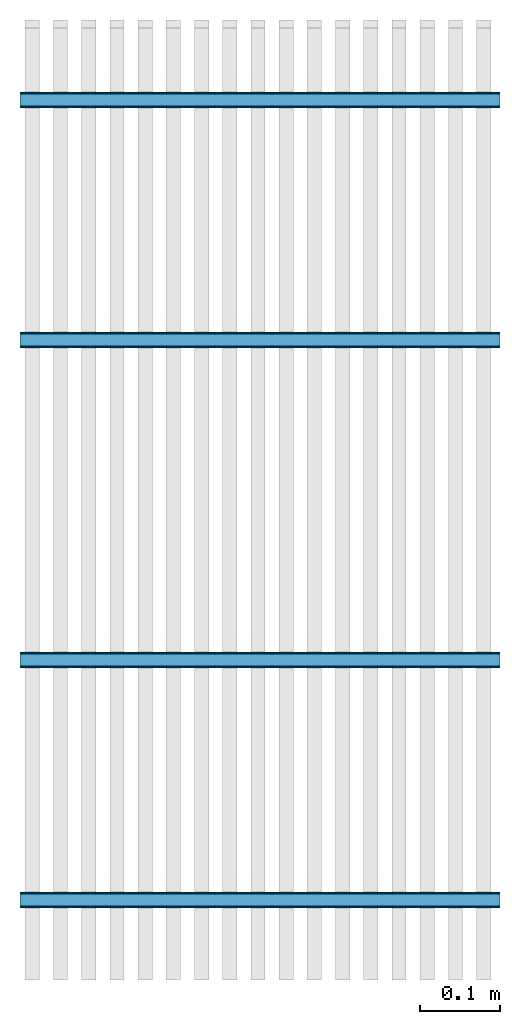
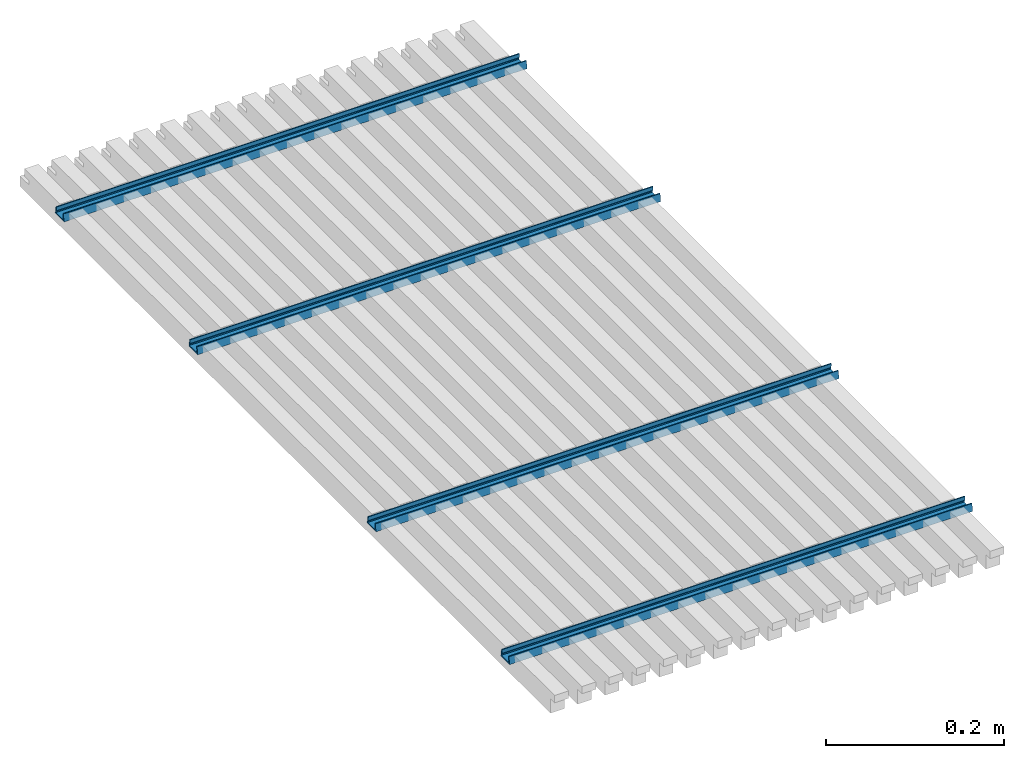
# One storey, part 1 of 3: 4 beams.
"""IFC2X3 building model written with IfcOpenShell, lengths in millimetres."""

import ifcopenshell
import ifcopenshell.guid

model = None  # the IFC model being written
_history = None  # IfcOwnerHistory: only IFC2X3 demands one
_inside = {}  # id of a spatial element -> (the spatial element, [elements in it])
_under = {}  # id of a project, library or spatial element -> (it, [spatial elements below it])
_declared = {}  # id of a project -> (the project, [libraries it declares])
_typed = {}  # id of a type object -> (the type object, [elements of that type])
_made_of = {}  # id of a material, layer set ... -> (it, [elements and type objects made of it])


def new_model(schema):
    """Start an empty IFC model of exactly this schema.

    Asked for "IFC4X3", IfcOpenShell would pick the latest addendum, in which some entities
    have other attributes; the version numbers below select the first issue.
    IFC2X3 requires an IfcOwnerHistory on every rooted entity: one is made here for all.
    """
    global model, _history
    if schema == "IFC4X3":
        model = ifcopenshell.file(schema_version=(4, 3, 0, 0))
    else:
        model = ifcopenshell.file(schema=schema)
    _inside.clear()
    _under.clear()
    _declared.clear()
    _typed.clear()
    _made_of.clear()
    _history = None
    if model.schema == "IFC2X3":
        org = make("IfcOrganization", Name="unknown")
        user = make(
            "IfcPersonAndOrganization",
            ThePerson=make("IfcPerson", FamilyName="unknown"),
            TheOrganization=org,
        )
        app = make(
            "IfcApplication",
            ApplicationDeveloper=org,
            Version="unknown",
            ApplicationFullName="unknown",
            ApplicationIdentifier="unknown",
        )
        _history = make(
            "IfcOwnerHistory",
            OwningUser=user,
            OwningApplication=app,
            ChangeAction="ADDED",
            CreationDate=0,
        )
    return model


def make(cls, **values):
    """One entity of the class cls with the attributes given. An attribute that is None is left unset."""
    return model.create_entity(
        cls, **{name: value for name, value in values.items() if value is not None}
    )


def entity(cls, *values):
    """Any entity or typed value of the class cls, its attributes in the order of the schema. None: left unset."""
    e = model.create_entity(cls)
    for i, value in enumerate(values):
        if value is not None:
            e[i] = value
    return e


def rooted(cls, **values):
    """An entity with a GlobalId (a new one), such as an element, a storey or a relation."""
    return make(cls, GlobalId=ifcopenshell.guid.new(), OwnerHistory=_history, **values)


def si_unit(unit_type, name, prefix=None):
    """IfcSIUnit, for example si_unit("LENGTHUNIT", "METRE", prefix="MILLI")."""
    return make("IfcSIUnit", UnitType=unit_type, Prefix=prefix, Name=name)


def converted_unit(unit_type, name, factor, base, dimensions=None, offset=None):
    """IfcConversionBasedUnit, such as the inch: factor (a typed value) times the base unit."""
    return make(
        "IfcConversionBasedUnit"
        if offset is None
        else "IfcConversionBasedUnitWithOffset",
        ConversionOffset=offset,
        Dimensions=None
        if dimensions is None
        else entity("IfcDimensionalExponents", *dimensions),
        UnitType=unit_type,
        Name=name,
        ConversionFactor=make(
            "IfcMeasureWithUnit", ValueComponent=factor, UnitComponent=base
        ),
    )


def money_unit(currency):
    """IfcMonetaryUnit."""
    return make("IfcMonetaryUnit", Currency=currency)


def assignment(units):
    """IfcUnitAssignment: the units of a project."""
    return None if units is None else make("IfcUnitAssignment", Units=units)


def point(xyz):
    """IfcCartesianPoint."""
    return None if xyz is None else make("IfcCartesianPoint", Coordinates=xyz)


def direction(xyz):
    """IfcDirection."""
    return None if xyz is None else make("IfcDirection", DirectionRatios=xyz)


def frame(location, z_axis=None, x_axis=None):
    """IfcAxis2Placement3D, a coordinate frame: its origin and axes. An axis left out is left unset."""
    return make(
        "IfcAxis2Placement3D",
        Location=point(location),
        Axis=direction(z_axis),
        RefDirection=direction(x_axis),
    )


def origin_with_axes():
    """The frame at (0, 0, 0) with the z axis (0, 0, 1) and the x axis (1, 0, 0) written out."""
    return frame((0.0, 0.0, 0.0), z_axis=(0.0, 0.0, 1.0), x_axis=(1.0, 0.0, 0.0))


def place(relative_to, where):
    """IfcLocalPlacement: puts the frame where relative to a parent placement (None: the world)."""
    return make(
        "IfcLocalPlacement", PlacementRelTo=relative_to, RelativePlacement=where
    )


def context(
    kind, dimensions, precision=None, world=None, true_north=None, identifier=None
):
    """IfcGeometricRepresentationContext, for example the 3D "Model" context."""
    return make(
        "IfcGeometricRepresentationContext",
        ContextIdentifier=identifier,
        ContextType=kind,
        CoordinateSpaceDimension=dimensions,
        Precision=precision,
        WorldCoordinateSystem=world,
        TrueNorth=true_north,
    )


def subcontext(parent, identifier, kind, view, scale=None):
    """IfcGeometricRepresentationSubContext, for example "Body" below "Model"."""
    return make(
        "IfcGeometricRepresentationSubContext",
        ContextIdentifier=identifier,
        ContextType=kind,
        ParentContext=parent,
        TargetScale=scale,
        TargetView=view,
    )


def project(units=None, contexts=None):
    """IfcProject with its units and contexts."""
    return rooted(
        "IfcProject",
        Name="project",
        RepresentationContexts=contexts,
        UnitsInContext=assignment(units),
    )


def spatial(cls, under=None, at=None, **own):
    """A site, building, storey or space (cls), placed at a placement, below another one or the project."""
    s = rooted(cls, ObjectPlacement=at, **own)
    if under is not None:
        _under.setdefault(under.id(), (under, []))[1].append(s)
    return s


def polyline(points):
    """IfcPolyline through the points."""
    return make("IfcPolyline", Points=[point(p) for p in points])


def outline(outer, holes=None, kind="AREA"):
    """IfcArbitraryClosedProfileDef: a profile drawn as a closed curve; with holes, ...WithVoids."""
    if holes is None:
        return make("IfcArbitraryClosedProfileDef", ProfileType=kind, OuterCurve=outer)
    return make(
        "IfcArbitraryProfileDefWithVoids",
        ProfileType=kind,
        OuterCurve=outer,
        InnerCurves=holes,
    )


def extrude(swept, where, along, depth):
    """IfcExtrudedAreaSolid: the profile swept, set in the frame where, extruded along a direction by depth."""
    return make(
        "IfcExtrudedAreaSolid",
        SweptArea=swept,
        Position=where,
        ExtrudedDirection=direction(along),
        Depth=depth,
    )


def shape(context_of_items, identifier, shape_type, items):
    """IfcShapeRepresentation: the items that make up one representation, for example the "Body"."""
    return make(
        "IfcShapeRepresentation",
        ContextOfItems=context_of_items,
        RepresentationIdentifier=identifier,
        RepresentationType=shape_type,
        Items=items,
    )


def material(Name=None, Category=None):
    """IfcMaterial."""
    return make("IfcMaterial", Name=Name, Category=Category)


def made_of(thing, what):
    """Note that an element or type object is made of a material, layer set ...; save() writes the relation."""
    if what is not None:
        _made_of.setdefault(what.id(), (what, []))[1].append(thing)
    return thing


def type_object(cls, material=None, **own):
    """A type object (cls), such as IfcWallType, which elements share."""
    return made_of(rooted(cls, **own), material)


def element(
    cls,
    number,
    at=None,
    inside=None,
    cuts=None,
    type_object=None,
    material=None,
    context=None,
    identifier="Body",
    shape_type=None,
    held_by="IfcProductDefinitionShape",
    body=None,
    shapes=None,
    **own,
):
    """One element of the class cls, such as IfcWall. Its Tag is "e" and its number.

    at: its placement. inside: the storey or other place that contains it. cuts: it is an
    opening in that element (IfcRelVoidsElement). A single representation is given by context,
    identifier, shape_type and body (its items); several are given by shapes. held_by: the class
    of the entity that holds the representations. save() writes the other relations.
    """
    e = rooted(cls, Tag="e%d" % number, ObjectPlacement=at, **own)
    if body is not None:
        shapes = [shape(context, identifier, shape_type, body)]
    if shapes is not None:
        e.Representation = make(held_by, Representations=shapes)
    if inside is not None:
        _inside.setdefault(inside.id(), (inside, []))[1].append(e)
    if cuts is not None:
        rooted(
            "IfcRelVoidsElement", RelatingBuildingElement=cuts, RelatedOpeningElement=e
        )
    if type_object is not None:
        _typed.setdefault(type_object.id(), (type_object, []))[1].append(e)
    return made_of(e, material)


def aggregate(whole, parts):
    """IfcRelAggregates: a whole, such as a stair, and the parts it consists of."""
    return rooted("IfcRelAggregates", RelatingObject=whole, RelatedObjects=parts)


def save(model, path):
    """Write the relations noted so far, then the file.

    IfcRelAggregates (storeys below a building ...), IfcRelContainedInSpatialStructure (elements
    in a storey), IfcRelDefinesByType, IfcRelAssociatesMaterial and IfcRelDeclares: one each for
    every whole, place, type object, material and project.
    """
    for whole, parts in _under.values():
        aggregate(whole, parts)
    for where, things in _inside.values():
        rooted(
            "IfcRelContainedInSpatialStructure",
            RelatedElements=things,
            RelatingStructure=where,
        )
    for kind, things in _typed.values():
        rooted("IfcRelDefinesByType", RelatedObjects=things, RelatingType=kind)
    for what, things in _made_of.values():
        rooted("IfcRelAssociatesMaterial", RelatedObjects=things, RelatingMaterial=what)
    for by, libraries in _declared.values():
        rooted("IfcRelDeclares", RelatingContext=by, RelatedDefinitions=libraries)
    model.write(path)


model = new_model("IFC2X3")

# Units and contexts
model_context = context("Model", 3, precision=1e-05, world=origin_with_axes(), true_north=direction((0.0, 1.0)))
body_context = subcontext(model_context, "Body", "Model", "MODEL_VIEW")
ifc_project = project(units=[si_unit("LENGTHUNIT", "METRE", prefix="MILLI"), si_unit("AREAUNIT", "SQUARE_METRE"), si_unit("VOLUMEUNIT", "CUBIC_METRE"), converted_unit("PLANEANGLEUNIT", "DEGREE", entity("IfcPlaneAngleMeasure", 0.0174532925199), si_unit("PLANEANGLEUNIT", "RADIAN"), dimensions=[0, 0, 0, 0, 0, 0, 0]), si_unit("SOLIDANGLEUNIT", "STERADIAN"), money_unit("AUD"), si_unit("TIMEUNIT", "SECOND"), si_unit("MASSUNIT", "GRAM"), si_unit("THERMODYNAMICTEMPERATUREUNIT", "DEGREE_CELSIUS"), si_unit("LUMINOUSINTENSITYUNIT", "LUMEN")], contexts=[model_context])

# Site, building, storey
site_placement = place(None, origin_with_axes())
site = spatial("IfcSite", under=ifc_project, at=site_placement, Name="Site", CompositionType="ELEMENT")
building_placement = place(site_placement, origin_with_axes())
building = spatial("IfcBuilding", under=site, at=building_placement, Name="Building", CompositionType="ELEMENT")
storey_placement = place(building_placement, origin_with_axes())
storey = spatial("IfcBuildingStorey", under=building, at=storey_placement, Name="GROUND", CompositionType="ELEMENT", Elevation=0.0)

# Beams
ifc_material = material(Name="Brick - Internal Wall")
beam_type = type_object("IfcBeamType", Name="15MM GRID 20 x 10", PredefinedType="NOTDEFINED")
for number, where, z_axis, x_axis, name in (
    (1, (2.5, 100.0, 20.0), (0.0, 0.0, 1.0), (0.0, -1.0, 0.0), "BEAM-02"),
    (2, (2.5, 400.0, 20.0), (0.0, 0.0, 1.0), (0.0, -1.0, 0.0), "BEAM-02"),
    (3, (2.5, 800.0, 20.0), (0.0, 0.0, 1.0), (0.0, -1.0, 0.0), "BEAM-02"),
    (4, (2.5, 1100.0, 20.0), (0.0, 0.0, 1.0), (0.0, -1.0, 0.0), "BEAM-02"),
):
    element("IfcBeam", number, at=place(storey_placement, frame(where, z_axis=z_axis, x_axis=x_axis)), inside=storey, type_object=beam_type, material=ifc_material, Name=name, ObjectType="15MM GRID 20 x 10", context=body_context, shape_type="SweptSolid", body=[
        extrude(outline(polyline([(10.0, 0.0), (8.5, 10.0), (7.26018347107, 10.0), (8.06268347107, 4.65), (7.26018347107, 3.5), (8.53518347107, 1.5), (-8.53518347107, 1.5), (-8.23518347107, 3.5), (-7.56832504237, 4.65), (-7.26018347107, 10.0), (-8.5, 10.0), (-10.0, 0.0), (10.0, 0.0)])), frame((0.0, 600.0, 0.0), z_axis=(0.0, -1.0, 0.0), x_axis=(1.0, 0.0, 0.0)), (0.0, 0.0, 1.0), 600.0),
    ])

save(model, "model.ifc")
